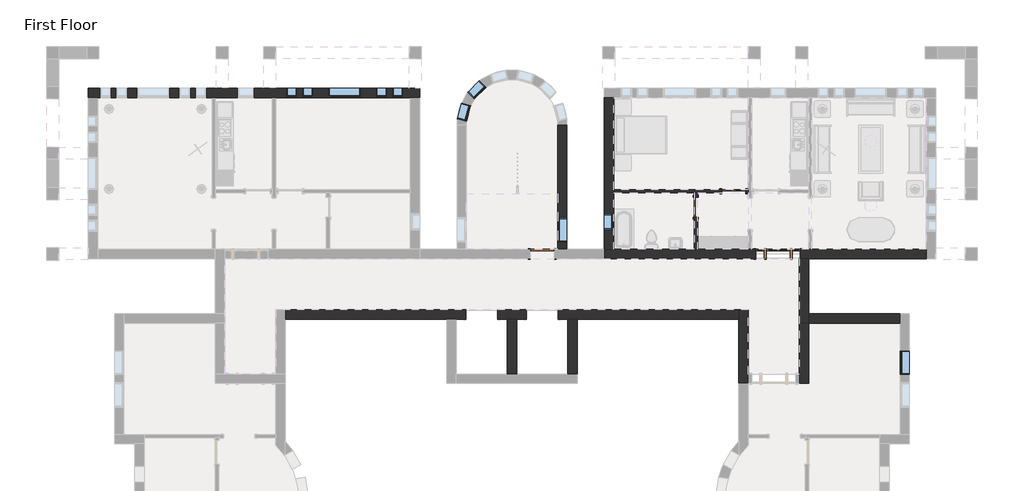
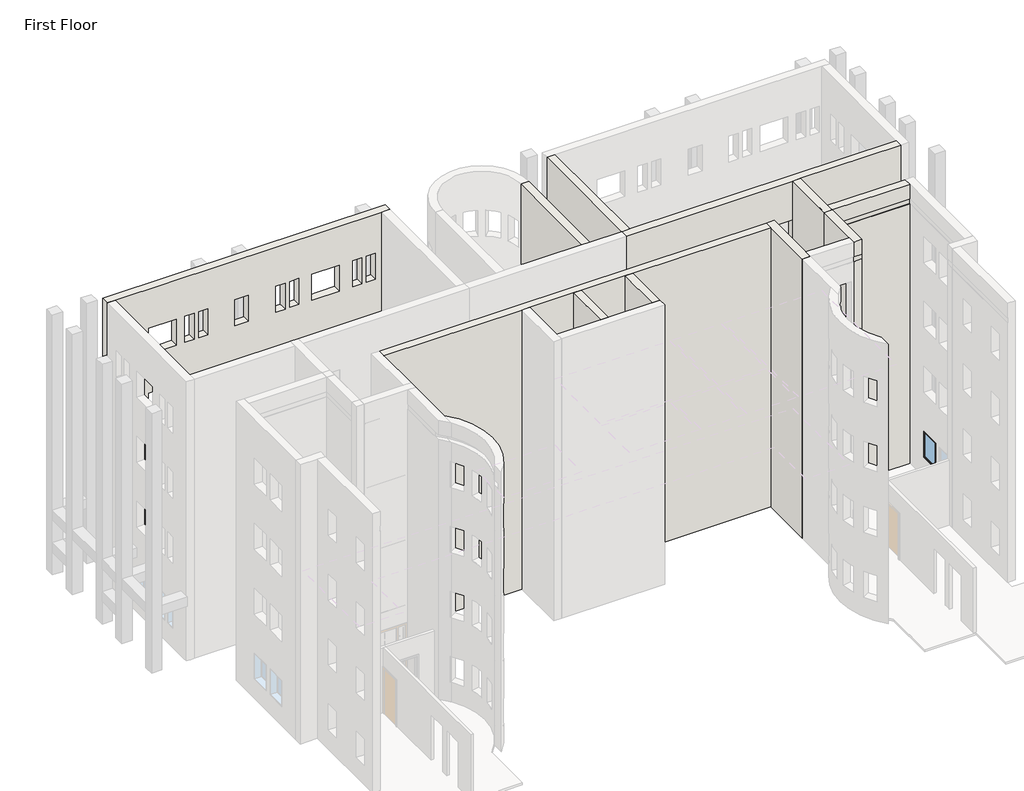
# One storey, part 15 of 23: 13 walls, 10 windows, 4 doors.
"""IFC4 building model written with IfcOpenShell, lengths in millimetres."""

from ifc_helpers import new_model, si_unit, frame, origin, origin_with_axes, place, context, project, spatial, polyline, outline, extrude, faceted_brep, transform, mapped, element, save
from components import door_2e3b4da2, door_4d6c7550, door_632be17d, door_dba5aa2e, window_da97879f, window_d61ef850, window_60baf983, window_15c49d37, window_0e2fc6ce, window_d89bf842

model = new_model("IFC4")

# Units and contexts
model_context = context("Model", 3, world=origin())
ifc_project = project(units=[si_unit("LENGTHUNIT", "METRE", prefix="MILLI")], contexts=[model_context])

# Site, building, storey
site = spatial("IfcSite", under=ifc_project)
building = spatial("IfcBuilding", under=site)
storey = spatial("IfcBuildingStorey", under=building, Name="First Floor", Elevation=0.0)

# Doors
placement = place(None, origin())
door_shape = door_2e3b4da2(model_context)
element("IfcDoor", 1, ObjectType="Single-Decorative 2 : 36\" x 84\"", at=placement, inside=storey, context=model_context, shape_type="MappedRepresentation", body=[
    mapped(door_shape, transform((-6669.0589563, 6723.5441867, 0.0), x_axis=(1.0, 0.0, 0.0), y_axis=(0.0, 1.0, 0.0), z_axis=(0.0, 0.0, 1.0))),
])
door_2_shape = door_4d6c7550(model_context)
element("IfcDoor", 2, ObjectType="Single-Flush : 30\" x 84\"", at=placement, inside=storey, context=model_context, shape_type="MappedRepresentation", body=[
    mapped(door_2_shape, transform((-8105.7464563, 6113.9441867, 0.0), x_axis=(0.0, 1.0, 0.0), y_axis=(-1.0, 0.0, 0.0), z_axis=(0.0, 0.0, 1.0))),
])
door_3_shape = door_632be17d(model_context)
element("IfcDoor", 3, ObjectType="Single-Flush : 36\" x 84\"", at=placement, inside=storey, context=model_context, shape_type="MappedRepresentation", body=[
    mapped(door_3_shape, transform((-13919.1714563, 4350.2316867, 0.0), x_axis=(1.0, 0.0, 0.0), y_axis=(0.0, 1.0, 0.0), z_axis=(0.0, 0.0, 1.0))),
])
door_4_shape = door_dba5aa2e(model_context)
element("IfcDoor", 4, ObjectType="Single-Raised Panel with Sidelights : 36\" x 84\"", at=placement, inside=storey, context=model_context, shape_type="MappedRepresentation", body=[
    mapped(door_4_shape, transform((-4992.6589563, 4350.2316867, 0.0), x_axis=(-1.0, 0.0, 0.0), y_axis=(0.0, -1.0, 0.0), z_axis=(0.0, 0.0, 1.0))),
])

# Walls
element("IfcWall", 5, ObjectType="Exterior - Brick on Mtl. Stud", at=placement, inside=storey, context=model_context, shape_type="Brep", body=[
    faceted_brep([(-5830.8589563, 4526.4441867, 2133.6), (-5830.8589563, 4526.4441867, 0.0), (-5995.9589563, 4526.4441867, 0.0), (-6122.9589563, 4526.4441867, 0.0), (-8042.2464563, 4526.4441867, 0.0), (-8169.2464563, 4526.4441867, 0.0), (-11217.2464563, 4526.4441867, 0.0), (-11569.6714563, 4526.4441867, 0.0), (-11571.2589563, 4526.4441867, 0.0), (-11571.2589563, 4526.4441867, 13106.4), (-11569.6714563, 4526.4441867, 13106.4), (-11217.2464563, 4526.4441867, 13106.4), (622.3285437, 4526.4441867, 13106.4), (622.3285437, 4526.4441867, 0.0), (-3709.9589563, 4526.4441867, 0.0), (-3836.9589563, 4526.4441867, 0.0), (-4154.4589563, 4526.4441867, 0.0), (-4154.4589563, 4526.4441867, 2133.6), (-4154.4589563, 4526.4441867, 9144.0), (-4154.4589563, 4526.4441867, 11277.6), (-5830.8589563, 4526.4441867, 11277.6), (-5830.8589563, 4526.4441867, 9144.0), (-4154.4589563, 4526.4441867, 3048.0), (-4154.4589563, 4526.4441867, 5181.6), (-5830.8589563, 4526.4441867, 5181.6), (-5830.8589563, 4526.4441867, 3048.0), (-4154.4589563, 4526.4441867, 6096.0), (-4154.4589563, 4526.4441867, 8229.6), (-5830.8589563, 4526.4441867, 8229.6), (-5830.8589563, 4526.4441867, 6096.0), (-11571.2589563, 4174.0191867, 0.0), (-5830.8589563, 4174.0191867, 0.0), (-5830.8589563, 4174.0191867, 2133.6), (-4154.4589563, 4174.0191867, 2133.6), (-4154.4589563, 4174.0191867, 0.0), (-3836.9589563, 4174.0191867, 0.0), (622.3285437, 4174.0191867, 0.0), (622.3285437, 4174.0191867, 13106.4), (-3836.9589563, 4174.0191867, 13106.4), (-4189.3839563, 4174.0191867, 13106.4), (-11571.2589563, 4174.0191867, 13106.4), (-4154.4589563, 4174.0191867, 9144.0), (-5830.8589563, 4174.0191867, 9144.0), (-5830.8589563, 4174.0191867, 11277.6), (-4154.4589563, 4174.0191867, 11277.6), (-4154.4589563, 4174.0191867, 3048.0), (-5830.8589563, 4174.0191867, 3048.0), (-5830.8589563, 4174.0191867, 5181.6), (-4154.4589563, 4174.0191867, 5181.6), (-4154.4589563, 4174.0191867, 6096.0), (-5830.8589563, 4174.0191867, 6096.0), (-5830.8589563, 4174.0191867, 8229.6), (-4154.4589563, 4174.0191867, 8229.6)], [[[0, 1, 2, 3, 4, 5, 6, 7, 8, 9, 10, 11, 12, 13, 14, 15, 16, 17], [18, 19, 20, 21], [22, 23, 24, 25], [26, 27, 28, 29]], [[30, 31, 32, 33, 34, 35, 36, 37, 38, 39, 40], [41, 42, 43, 44], [45, 46, 47, 48], [49, 50, 51, 52]], [[8, 7, 6, 5, 4, 3, 2, 1, 31, 30]], [[16, 15, 14, 13, 36, 35, 34]], [[9, 8, 30, 40]], [[12, 11, 10, 9, 40, 39, 38, 37]], [[13, 12, 37, 36]], [[32, 31, 1, 0]], [[33, 32, 0, 17]], [[34, 33, 17, 16]], [[42, 41, 18, 21]], [[43, 42, 21, 20]], [[44, 43, 20, 19]], [[41, 44, 19, 18]], [[46, 45, 22, 25]], [[47, 46, 25, 24]], [[48, 47, 24, 23]], [[45, 48, 23, 22]], [[50, 49, 26, 29]], [[51, 50, 29, 28]], [[52, 51, 28, 27]], [[49, 52, 27, 26]]]),
])
element("IfcWall", 6, ObjectType="Exterior - Brick on Mtl. Stud", at=placement, inside=storey, context=model_context, shape_type="Brep", body=[
    faceted_brep([(-11217.2464563, 4526.4441867, 0.0), (-11217.2464563, 6660.0441867, 0.0), (-11217.2464563, 6787.0441867, 0.0), (-11217.2464563, 10270.0191867, 0.0), (-11217.2464563, 10270.0191867, 13106.4), (-11217.2464563, 4526.4441867, 13106.4), (-11217.2464563, 5264.6316867, 8229.6), (-11217.2464563, 5874.2316867, 8229.6), (-11217.2464563, 5874.2316867, 7010.4), (-11217.2464563, 5264.6316867, 7010.4), (-11217.2464563, 5264.6316867, 5181.6), (-11217.2464563, 5874.2316867, 5181.6), (-11217.2464563, 5874.2316867, 3962.4), (-11217.2464563, 5264.6316867, 3962.4), (-11217.2464563, 5264.6316867, 11277.6), (-11217.2464563, 5874.2316867, 11277.6), (-11217.2464563, 5874.2316867, 10058.4), (-11217.2464563, 5264.6316867, 10058.4), (-11217.2464563, 5264.6316867, 2133.6), (-11217.2464563, 5874.2316867, 2133.6), (-11217.2464563, 5874.2316867, 914.4), (-11217.2464563, 5264.6316867, 914.4), (-11569.6714563, 4526.4441867, 0.0), (-11569.6714563, 4526.4441867, 13106.4), (-11569.6714563, 10270.0191867, 13106.4), (-11569.6714563, 10270.0191867, 0.0), (-11569.6714563, 5264.6316867, 8229.6), (-11569.6714563, 5264.6316867, 7010.4), (-11569.6714563, 5874.2316867, 7010.4), (-11569.6714563, 5874.2316867, 8229.6), (-11569.6714563, 5264.6316867, 5181.6), (-11569.6714563, 5264.6316867, 3962.4), (-11569.6714563, 5874.2316867, 3962.4), (-11569.6714563, 5874.2316867, 5181.6), (-11569.6714563, 5264.6316867, 11277.6), (-11569.6714563, 5264.6316867, 10058.4), (-11569.6714563, 5874.2316867, 10058.4), (-11569.6714563, 5874.2316867, 11277.6), (-11569.6714563, 5264.6316867, 2133.6), (-11569.6714563, 5264.6316867, 914.4), (-11569.6714563, 5874.2316867, 914.4), (-11569.6714563, 5874.2316867, 2133.6), (-11382.3464563, 4526.4441867, 0.0), (-11382.3464563, 10270.0191867, 0.0)], [[[0, 1, 2, 3, 4, 5], [6, 7, 8, 9], [10, 11, 12, 13], [14, 15, 16, 17], [18, 19, 20, 21]], [[22, 23, 24, 25], [26, 27, 28, 29], [30, 31, 32, 33], [34, 35, 36, 37], [38, 39, 40, 41]], [[5, 4, 24, 23]], [[0, 5, 23, 22, 42]], [[4, 3, 43, 25, 24]], [[42, 22, 25, 43]], [[3, 2, 1, 0, 42, 43]], [[27, 26, 6, 9]], [[28, 27, 9, 8]], [[29, 28, 8, 7]], [[26, 29, 7, 6]], [[31, 30, 10, 13]], [[32, 31, 13, 12]], [[33, 32, 12, 11]], [[30, 33, 11, 10]], [[35, 34, 14, 17]], [[36, 35, 17, 16]], [[37, 36, 16, 15]], [[34, 37, 15, 14]], [[39, 38, 18, 21]], [[40, 39, 21, 20]], [[41, 40, 20, 19]], [[38, 41, 19, 18]]]),
])
element("IfcWall", 7, ObjectType="Exterior - Brick on Mtl. Stud", at=placement, inside=storey, context=model_context, shape_type="SweptSolid", body=[
    extrude(outline(polyline([(-12599.9589563, 1888.0191867), (-12599.9589563, -197.9558133), (-12952.3839563, -197.9558133), (-12952.3839563, 1888.0191867), (-12599.9589563, 1888.0191867)])), origin_with_axes(), (0.0, 0.0, 1.0), 13106.4),
])
element("IfcWall", 8, ObjectType="Exterior - Brick on Mtl. Stud", at=placement, inside=storey, context=model_context, shape_type="Brep", body=[
    faceted_brep([(-15595.5714563, 1888.0191867, 0.0), (-15238.3839563, 1888.0191867, 0.0), (-14885.9589563, 1888.0191867, 0.0), (-14528.7714563, 1888.0191867, 0.0), (-14528.7714563, 1888.0191867, 2133.6), (-13309.5714563, 1888.0191867, 2133.6), (-13309.5714563, 1888.0191867, 0.0), (-12952.3839563, 1888.0191867, 0.0), (-12599.9589563, 1888.0191867, 0.0), (-6475.3839563, 1888.0191867, 0.0), (-6475.3839563, 1888.0191867, 13106.4), (-12599.9589563, 1888.0191867, 13106.4), (-12952.3839563, 1888.0191867, 13106.4), (-14885.9589563, 1888.0191867, 13106.4), (-15238.3839563, 1888.0191867, 13106.4), (-17171.9589563, 1888.0191867, 13106.4), (-17524.3839563, 1888.0191867, 13106.4), (-23648.9589563, 1888.0191867, 13106.4), (-23648.9589563, 1888.0191867, 0.0), (-17524.3839563, 1888.0191867, 0.0), (-17171.9589563, 1888.0191867, 0.0), (-16814.7714563, 1888.0191867, 0.0), (-16814.7714563, 1888.0191867, 2133.6), (-15595.5714563, 1888.0191867, 2133.6), (-13309.5714563, 1888.0191867, 8229.6), (-13309.5714563, 1888.0191867, 6096.0), (-14528.7714563, 1888.0191867, 6096.0), (-14528.7714563, 1888.0191867, 8229.6), (-15595.5714563, 1888.0191867, 8229.6), (-15595.5714563, 1888.0191867, 6096.0), (-16814.7714563, 1888.0191867, 6096.0), (-16814.7714563, 1888.0191867, 8229.6), (-13309.5714563, 1888.0191867, 5181.6), (-13309.5714563, 1888.0191867, 3048.0), (-14528.7714563, 1888.0191867, 3048.0), (-14528.7714563, 1888.0191867, 5181.6), (-15595.5714563, 1888.0191867, 5181.6), (-15595.5714563, 1888.0191867, 3048.0), (-16814.7714563, 1888.0191867, 3048.0), (-16814.7714563, 1888.0191867, 5181.6), (-13309.5714563, 1888.0191867, 11277.6), (-13309.5714563, 1888.0191867, 9144.0), (-14528.7714563, 1888.0191867, 9144.0), (-14528.7714563, 1888.0191867, 11277.6), (-15595.5714563, 1888.0191867, 11277.6), (-15595.5714563, 1888.0191867, 9144.0), (-16814.7714563, 1888.0191867, 9144.0), (-16814.7714563, 1888.0191867, 11277.6), (-14528.7714563, 2240.4441867, 2133.6), (-14528.7714563, 2240.4441867, 0.0), (-15595.5714563, 2240.4441867, 0.0), (-15595.5714563, 2240.4441867, 2133.6), (-16814.7714563, 2240.4441867, 2133.6), (-16814.7714563, 2240.4441867, 0.0), (-23648.9589563, 2240.4441867, 0.0), (-23648.9589563, 2240.4441867, 13106.4), (-6475.3839563, 2240.4441867, 13106.4), (-6475.3839563, 2240.4441867, 0.0), (-13309.5714563, 2240.4441867, 0.0), (-13309.5714563, 2240.4441867, 2133.6), (-13309.5714563, 2240.4441867, 8229.6), (-14528.7714563, 2240.4441867, 8229.6), (-14528.7714563, 2240.4441867, 6096.0), (-13309.5714563, 2240.4441867, 6096.0), (-15595.5714563, 2240.4441867, 8229.6), (-16814.7714563, 2240.4441867, 8229.6), (-16814.7714563, 2240.4441867, 6096.0), (-15595.5714563, 2240.4441867, 6096.0), (-13309.5714563, 2240.4441867, 5181.6), (-14528.7714563, 2240.4441867, 5181.6), (-14528.7714563, 2240.4441867, 3048.0), (-13309.5714563, 2240.4441867, 3048.0), (-15595.5714563, 2240.4441867, 5181.6), (-16814.7714563, 2240.4441867, 5181.6), (-16814.7714563, 2240.4441867, 3048.0), (-15595.5714563, 2240.4441867, 3048.0), (-13309.5714563, 2240.4441867, 11277.6), (-14528.7714563, 2240.4441867, 11277.6), (-14528.7714563, 2240.4441867, 9144.0), (-13309.5714563, 2240.4441867, 9144.0), (-15595.5714563, 2240.4441867, 11277.6), (-16814.7714563, 2240.4441867, 11277.6), (-16814.7714563, 2240.4441867, 9144.0), (-15595.5714563, 2240.4441867, 9144.0)], [[[0, 1, 2, 3, 4, 5, 6, 7, 8, 9, 10, 11, 12, 13, 14, 15, 16, 17, 18, 19, 20, 21, 22, 23], [24, 25, 26, 27], [28, 29, 30, 31], [32, 33, 34, 35], [36, 37, 38, 39], [40, 41, 42, 43], [44, 45, 46, 47]], [[48, 49, 50, 51, 52, 53, 54, 55, 56, 57, 58, 59], [60, 61, 62, 63], [64, 65, 66, 67], [68, 69, 70, 71], [72, 73, 74, 75], [76, 77, 78, 79], [80, 81, 82, 83]], [[54, 53, 21, 20, 19, 18]], [[50, 49, 3, 2, 1, 0]], [[58, 57, 9, 8, 7, 6]], [[17, 16, 15, 14, 13, 12, 11, 10, 56, 55]], [[10, 9, 57, 56]], [[18, 17, 55, 54]], [[0, 23, 51, 50]], [[22, 21, 53, 52]], [[23, 22, 52, 51]], [[6, 5, 59, 58]], [[4, 3, 49, 48]], [[5, 4, 48, 59]], [[25, 24, 60, 63]], [[26, 25, 63, 62]], [[27, 26, 62, 61]], [[24, 27, 61, 60]], [[29, 28, 64, 67]], [[30, 29, 67, 66]], [[31, 30, 66, 65]], [[28, 31, 65, 64]], [[33, 32, 68, 71]], [[34, 33, 71, 70]], [[35, 34, 70, 69]], [[32, 35, 69, 68]], [[37, 36, 72, 75]], [[38, 37, 75, 74]], [[39, 38, 74, 73]], [[36, 39, 73, 72]], [[41, 40, 76, 79]], [[42, 41, 79, 78]], [[43, 42, 78, 77]], [[40, 43, 77, 76]], [[45, 44, 80, 83]], [[46, 45, 83, 82]], [[47, 46, 82, 81]], [[44, 47, 81, 80]]]),
])
element("IfcWall", 9, ObjectType="Exterior - Brick on Mtl. Stud", at=placement, inside=storey, context=model_context, shape_type="SweptSolid", body=[
    extrude(outline(polyline([(4526.4441867, 0.0), (4526.4441867, 13106.4), (9227.0316867, 13106.4), (9227.0316867, 0.0), (4526.4441867, 0.0)]), holes=[polyline([(5721.8316867, 8229.6), (4807.4316867, 8229.6), (4807.4316867, 7010.4), (5721.8316867, 7010.4), (5721.8316867, 8229.6)]), polyline([(5721.8316867, 5181.6), (4807.4316867, 5181.6), (4807.4316867, 3962.4), (5721.8316867, 3962.4), (5721.8316867, 5181.6)]), polyline([(5721.8316867, 11277.6), (4807.4316867, 11277.6), (4807.4316867, 10058.4), (5721.8316867, 10058.4), (5721.8316867, 11277.6)]), polyline([(5721.8316867, 2133.6), (4807.4316867, 2133.6), (4807.4316867, 914.4), (5721.8316867, 914.4), (5721.8316867, 2133.6)])]), frame((-13333.3839563, 0.0, 0.0), z_axis=(1.0, 0.0, 0.0), x_axis=(0.0, 1.0, 0.0)), (0.0, 0.0, 1.0), 352.425),
])
element("IfcWall", 10, ObjectType="Exterior - Brick on Mtl. Stud", at=placement, inside=storey, context=model_context, shape_type="SweptSolid", body=[
    extrude(outline(polyline([(-14885.9589563, 1888.0191867), (-14885.9589563, -197.9558133), (-15238.3839563, -197.9558133), (-15238.3839563, 1888.0191867), (-14885.9589563, 1888.0191867)])), origin_with_axes(), (0.0, 0.0, 1.0), 13106.4),
])
element("IfcWall", 11, ObjectType="Exterior - Brick on Mtl. Stud", at=placement, inside=storey, context=model_context, shape_type="Brep", body=[
    faceted_brep([(-6475.3839563, 2240.4441867, 0.0), (-6475.3839563, 1888.0191867, 0.0), (-6475.3839563, -550.3808133, 0.0), (-6475.3839563, -550.3808133, 13106.4), (-6475.3839563, 1888.0191867, 13106.4), (-6475.3839563, 2240.4441867, 13106.4), (-6122.9589563, 2240.4441867, 0.0), (-6122.9589563, 2240.4441867, 13106.4), (-6122.9589563, -197.9558133, 13106.4), (-6122.9589563, -550.3808133, 13106.4), (-6122.9589563, -550.3808133, 12420.6), (-6122.9589563, -550.3808133, 12192.0), (-6122.9589563, -550.3808133, 0.0), (-6122.9589563, -197.9558133, 0.0)], [[[0, 1, 2, 3, 4, 5]], [[6, 7, 8, 9, 10, 11, 12, 13]], [[2, 1, 0, 6, 13, 12]], [[5, 4, 3, 9, 8, 7]], [[0, 5, 7, 6]], [[3, 2, 12, 11, 10, 9]]]),
])
element("IfcWall", 12, ObjectType="Exterior - Brick on Mtl. Stud", at=placement, inside=storey, context=model_context, shape_type="Brep", body=[
    faceted_brep([(-3836.9589563, -550.3808133, 0.0), (-3836.9589563, 4174.0191867, 0.0), (-3836.9589563, 4174.0191867, 13106.4), (-3836.9589563, -550.3808133, 13106.4), (-4189.3839563, -550.3808133, 0.0), (-4189.3839563, -550.3808133, 12192.0), (-4189.3839563, -550.3808133, 12420.6), (-4189.3839563, -550.3808133, 13106.4), (-4189.3839563, -197.9558133, 13106.4), (-4189.3839563, 4174.0191867, 13106.4), (-4189.3839563, 4174.0191867, 0.0), (-4189.3839563, -197.9558133, 0.0), (-4154.4589563, 4174.0191867, 0.0)], [[[0, 1, 2, 3]], [[4, 5, 6, 7, 8, 9, 10, 11]], [[1, 0, 4, 11, 10, 12]], [[3, 2, 9, 8, 7]], [[0, 3, 7, 6, 5, 4]], [[2, 1, 12, 10, 9]]]),
])
element("IfcWall", 13, ObjectType="Exterior - Brick on Mtl. Stud", at=placement, inside=storey, context=model_context, shape_type="Brep", body=[
    faceted_brep([(-379.3839563, 2088.0441867, 0.0), (-4189.3839563, 2088.0441867, 0.0), (-4189.3839563, 2088.0441867, 13106.4), (-379.3839563, 2088.0441867, 13106.4), (-4189.3839563, 1735.6191867, 0.0), (-3836.9589563, 1735.6191867, 0.0), (-379.3839563, 1735.6191867, 0.0), (-379.3839563, 1735.6191867, 12192.0), (-3836.9589563, 1735.6191867, 12192.0), (-3849.6589563, 1735.6191867, 12192.0), (-3849.6589563, 1735.6191867, 12420.6), (-3836.9589563, 1735.6191867, 12420.6), (-379.3839563, 1735.6191867, 12420.6), (-379.3839563, 1735.6191867, 13106.4), (-3836.9589563, 1735.6191867, 13106.4), (-4189.3839563, 1735.6191867, 13106.4), (-379.3839563, 1748.3191867, 12420.6), (-379.3839563, 1748.3191867, 12192.0), (-3849.6589563, 1748.3191867, 12192.0), (-3849.6589563, 1748.3191867, 12420.6)], [[[0, 1, 2, 3]], [[4, 5, 6, 7, 8, 9, 10, 11, 12, 13, 14, 15]], [[1, 0, 6, 5, 4]], [[3, 2, 15, 14, 13]], [[2, 1, 4, 15]], [[0, 3, 13, 12, 16, 17, 7, 6]], [[17, 18, 9, 8, 7]], [[10, 19, 16, 12, 11]], [[19, 18, 17, 16]], [[18, 19, 10, 9]]]),
])
element("IfcWall", 14, ObjectType="Exterior - Brick on Mtl. Stud", at=placement, inside=storey, context=model_context, shape_type="Brep", body=[
    faceted_brep([(-4189.3839563, 1735.6191867, 0.0), (-4189.3839563, -197.9558133, 0.0), (-4189.3839563, -550.3808133, 0.0), (-4189.3839563, -550.3808133, 12192.0), (-4189.3839563, -537.6808133, 12192.0), (-4189.3839563, -537.6808133, 12420.6), (-4189.3839563, -550.3808133, 12420.6), (-4189.3839563, -550.3808133, 13106.4), (-4189.3839563, -197.9558133, 13106.4), (-4189.3839563, 1735.6191867, 13106.4), (-3836.9589563, -550.3808133, 0.0), (-3836.9589563, 1735.6191867, 0.0), (-3836.9589563, 1735.6191867, 12192.0), (-3836.9589563, -550.3808133, 12192.0), (-3836.9589563, 1735.6191867, 13106.4), (-3836.9589563, -550.3808133, 13106.4), (-3836.9589563, -550.3808133, 12420.6), (-3836.9589563, 1735.6191867, 12420.6), (-3849.6589563, 1735.6191867, 12420.6), (-3849.6589563, 1735.6191867, 12192.0), (-3849.6589563, -537.6808133, 12192.0), (-3849.6589563, -537.6808133, 12420.6)], [[[0, 1, 2, 3, 4, 5, 6, 7, 8, 9]], [[10, 11, 12, 13]], [[14, 15, 16, 17]], [[2, 1, 0, 11, 10]], [[9, 8, 7, 15, 14]], [[0, 9, 14, 17, 18, 19, 12, 11]], [[2, 10, 13, 3]], [[15, 7, 6, 16]], [[19, 20, 4, 3, 13, 12]], [[5, 21, 18, 17, 16, 6]], [[21, 20, 19, 18]], [[20, 21, 5, 4]]]),
])
element("IfcWall", 15, ObjectType="Exterior - Brick on Mtl. Stud", at=placement, inside=storey, context=model_context, shape_type="Brep", body=[
    faceted_brep([(-18554.6714563, 10622.4441867, 0.0), (-18741.9964563, 10622.4441867, 0.0), (-30911.7714563, 10622.4441867, 0.0), (-31099.0964563, 10622.4441867, 0.0), (-31099.0964563, 10622.4441867, 13106.4), (-18554.6714563, 10622.4441867, 13106.4), (-30033.8839563, 10622.4441867, 8229.6), (-30033.8839563, 10622.4441867, 7010.4), (-29627.4839563, 10622.4441867, 7010.4), (-29627.4839563, 10622.4441867, 8229.6), (-30643.4839563, 10622.4441867, 8229.6), (-30643.4839563, 10622.4441867, 7010.4), (-30237.0839563, 10622.4441867, 7010.4), (-30237.0839563, 10622.4441867, 8229.6), (-27239.8839563, 10622.4441867, 8229.6), (-27646.2839563, 10622.4441867, 8229.6), (-27646.2839563, 10622.4441867, 7010.4), (-27239.8839563, 10622.4441867, 7010.4), (-26630.2839563, 10622.4441867, 8229.6), (-27036.6839563, 10622.4441867, 8229.6), (-27036.6839563, 10622.4441867, 7010.4), (-26630.2839563, 10622.4441867, 7010.4), (-22998.0839563, 10622.4441867, 8229.6), (-22998.0839563, 10622.4441867, 7010.4), (-22591.6839563, 10622.4441867, 7010.4), (-22591.6839563, 10622.4441867, 8229.6), (-23607.6839563, 10622.4441867, 8229.6), (-23607.6839563, 10622.4441867, 7010.4), (-23201.2839563, 10622.4441867, 7010.4), (-23201.2839563, 10622.4441867, 8229.6), (-19797.6839563, 10622.4441867, 8229.6), (-20204.0839563, 10622.4441867, 8229.6), (-20204.0839563, 10622.4441867, 7010.4), (-19797.6839563, 10622.4441867, 7010.4), (-19188.0839563, 10622.4441867, 8229.6), (-19594.4839563, 10622.4441867, 8229.6), (-19594.4839563, 10622.4441867, 7010.4), (-19188.0839563, 10622.4441867, 7010.4), (-28027.2839563, 10622.4441867, 8229.6), (-29246.4839563, 10622.4441867, 8229.6), (-29246.4839563, 10622.4441867, 7010.4), (-28027.2839563, 10622.4441867, 7010.4), (-20788.2839563, 10622.4441867, 8229.6), (-22007.4839563, 10622.4441867, 8229.6), (-22007.4839563, 10622.4441867, 7010.4), (-20788.2839563, 10622.4441867, 7010.4), (-24826.8839563, 10622.4441867, 8229.6), (-25436.4839563, 10622.4441867, 8229.6), (-25436.4839563, 10622.4441867, 7010.4), (-24826.8839563, 10622.4441867, 7010.4), (-30033.8839563, 10622.4441867, 5181.6), (-30033.8839563, 10622.4441867, 3962.4), (-29627.4839563, 10622.4441867, 3962.4), (-29627.4839563, 10622.4441867, 5181.6), (-30643.4839563, 10622.4441867, 5181.6), (-30643.4839563, 10622.4441867, 3962.4), (-30237.0839563, 10622.4441867, 3962.4), (-30237.0839563, 10622.4441867, 5181.6), (-27239.8839563, 10622.4441867, 5181.6), (-27646.2839563, 10622.4441867, 5181.6), (-27646.2839563, 10622.4441867, 3962.4), (-27239.8839563, 10622.4441867, 3962.4), (-26630.2839563, 10622.4441867, 5181.6), (-27036.6839563, 10622.4441867, 5181.6), (-27036.6839563, 10622.4441867, 3962.4), (-26630.2839563, 10622.4441867, 3962.4), (-22998.0839563, 10622.4441867, 5181.6), (-22998.0839563, 10622.4441867, 3962.4), (-22591.6839563, 10622.4441867, 3962.4), (-22591.6839563, 10622.4441867, 5181.6), (-23607.6839563, 10622.4441867, 5181.6), (-23607.6839563, 10622.4441867, 3962.4), (-23201.2839563, 10622.4441867, 3962.4), (-23201.2839563, 10622.4441867, 5181.6), (-19797.6839563, 10622.4441867, 5181.6), (-20204.0839563, 10622.4441867, 5181.6), (-20204.0839563, 10622.4441867, 3962.4), (-19797.6839563, 10622.4441867, 3962.4), (-19188.0839563, 10622.4441867, 5181.6), (-19594.4839563, 10622.4441867, 5181.6), (-19594.4839563, 10622.4441867, 3962.4), (-19188.0839563, 10622.4441867, 3962.4), (-28027.2839563, 10622.4441867, 5181.6), (-29246.4839563, 10622.4441867, 5181.6), (-29246.4839563, 10622.4441867, 3962.4), (-28027.2839563, 10622.4441867, 3962.4), (-20788.2839563, 10622.4441867, 5181.6), (-22007.4839563, 10622.4441867, 5181.6), (-22007.4839563, 10622.4441867, 3962.4), (-20788.2839563, 10622.4441867, 3962.4), (-24826.8839563, 10622.4441867, 5181.6), (-25436.4839563, 10622.4441867, 5181.6), (-25436.4839563, 10622.4441867, 3962.4), (-24826.8839563, 10622.4441867, 3962.4), (-30033.8839563, 10622.4441867, 11277.6), (-30033.8839563, 10622.4441867, 10058.4), (-29627.4839563, 10622.4441867, 10058.4), (-29627.4839563, 10622.4441867, 11277.6), (-30643.4839563, 10622.4441867, 11277.6), (-30643.4839563, 10622.4441867, 10058.4), (-30237.0839563, 10622.4441867, 10058.4), (-30237.0839563, 10622.4441867, 11277.6), (-27239.8839563, 10622.4441867, 11277.6), (-27646.2839563, 10622.4441867, 11277.6), (-27646.2839563, 10622.4441867, 10058.4), (-27239.8839563, 10622.4441867, 10058.4), (-26630.2839563, 10622.4441867, 11277.6), (-27036.6839563, 10622.4441867, 11277.6), (-27036.6839563, 10622.4441867, 10058.4), (-26630.2839563, 10622.4441867, 10058.4), (-22998.0839563, 10622.4441867, 11277.6), (-22998.0839563, 10622.4441867, 10058.4), (-22591.6839563, 10622.4441867, 10058.4), (-22591.6839563, 10622.4441867, 11277.6), (-23607.6839563, 10622.4441867, 11277.6), (-23607.6839563, 10622.4441867, 10058.4), (-23201.2839563, 10622.4441867, 10058.4), (-23201.2839563, 10622.4441867, 11277.6), (-19797.6839563, 10622.4441867, 11277.6), (-20204.0839563, 10622.4441867, 11277.6), (-20204.0839563, 10622.4441867, 10058.4), (-19797.6839563, 10622.4441867, 10058.4), (-19188.0839563, 10622.4441867, 11277.6), (-19594.4839563, 10622.4441867, 11277.6), (-19594.4839563, 10622.4441867, 10058.4), (-19188.0839563, 10622.4441867, 10058.4), (-28027.2839563, 10622.4441867, 11277.6), (-29246.4839563, 10622.4441867, 11277.6), (-29246.4839563, 10622.4441867, 10058.4), (-28027.2839563, 10622.4441867, 10058.4), (-20788.2839563, 10622.4441867, 11277.6), (-22007.4839563, 10622.4441867, 11277.6), (-22007.4839563, 10622.4441867, 10058.4), (-20788.2839563, 10622.4441867, 10058.4), (-24826.8839563, 10622.4441867, 11277.6), (-25436.4839563, 10622.4441867, 11277.6), (-25436.4839563, 10622.4441867, 10058.4), (-24826.8839563, 10622.4441867, 10058.4), (-30033.8839563, 10622.4441867, 2133.6), (-30033.8839563, 10622.4441867, 914.4), (-29627.4839563, 10622.4441867, 914.4), (-29627.4839563, 10622.4441867, 2133.6), (-30643.4839563, 10622.4441867, 2133.6), (-30643.4839563, 10622.4441867, 914.4), (-30237.0839563, 10622.4441867, 914.4), (-30237.0839563, 10622.4441867, 2133.6), (-27239.8839563, 10622.4441867, 2133.6), (-27646.2839563, 10622.4441867, 2133.6), (-27646.2839563, 10622.4441867, 914.4), (-27239.8839563, 10622.4441867, 914.4), (-26630.2839563, 10622.4441867, 2133.6), (-27036.6839563, 10622.4441867, 2133.6), (-27036.6839563, 10622.4441867, 914.4), (-26630.2839563, 10622.4441867, 914.4), (-22998.0839563, 10622.4441867, 2133.6), (-22998.0839563, 10622.4441867, 914.4), (-22591.6839563, 10622.4441867, 914.4), (-22591.6839563, 10622.4441867, 2133.6), (-23607.6839563, 10622.4441867, 2133.6), (-23607.6839563, 10622.4441867, 914.4), (-23201.2839563, 10622.4441867, 914.4), (-23201.2839563, 10622.4441867, 2133.6), (-19797.6839563, 10622.4441867, 2133.6), (-20204.0839563, 10622.4441867, 2133.6), (-20204.0839563, 10622.4441867, 914.4), (-19797.6839563, 10622.4441867, 914.4), (-19188.0839563, 10622.4441867, 2133.6), (-19594.4839563, 10622.4441867, 2133.6), (-19594.4839563, 10622.4441867, 914.4), (-19188.0839563, 10622.4441867, 914.4), (-28027.2839563, 10622.4441867, 2133.6), (-29246.4839563, 10622.4441867, 2133.6), (-29246.4839563, 10622.4441867, 914.4), (-28027.2839563, 10622.4441867, 914.4), (-20788.2839563, 10622.4441867, 2133.6), (-22007.4839563, 10622.4441867, 2133.6), (-22007.4839563, 10622.4441867, 914.4), (-20788.2839563, 10622.4441867, 914.4), (-24826.8839563, 10622.4441867, 2133.6), (-25436.4839563, 10622.4441867, 2133.6), (-25436.4839563, 10622.4441867, 914.4), (-24826.8839563, 10622.4441867, 914.4), (-18554.6714563, 10270.0191867, 0.0), (-18554.6714563, 10270.0191867, 13106.4), (-18907.0964563, 10270.0191867, 13106.4), (-30746.6714563, 10270.0191867, 13106.4), (-31099.0964563, 10270.0191867, 13106.4), (-31099.0964563, 10270.0191867, 0.0), (-30911.7714563, 10270.0191867, 0.0), (-30746.6714563, 10270.0191867, 0.0), (-26414.3839563, 10270.0191867, 0.0), (-26287.3839563, 10270.0191867, 0.0), (-24128.3839563, 10270.0191867, 0.0), (-24001.3839563, 10270.0191867, 0.0), (-18907.0964563, 10270.0191867, 0.0), (-18741.9964563, 10270.0191867, 0.0), (-30033.8839563, 10270.0191867, 8229.6), (-29627.4839563, 10270.0191867, 8229.6), (-29627.4839563, 10270.0191867, 7010.4), (-30033.8839563, 10270.0191867, 7010.4), (-30643.4839563, 10270.0191867, 8229.6), (-30237.0839563, 10270.0191867, 8229.6), (-30237.0839563, 10270.0191867, 7010.4), (-30643.4839563, 10270.0191867, 7010.4), (-27239.8839563, 10270.0191867, 8229.6), (-27239.8839563, 10270.0191867, 7010.4), (-27646.2839563, 10270.0191867, 7010.4), (-27646.2839563, 10270.0191867, 8229.6), (-26630.2839563, 10270.0191867, 8229.6), (-26630.2839563, 10270.0191867, 7010.4), (-27036.6839563, 10270.0191867, 7010.4), (-27036.6839563, 10270.0191867, 8229.6), (-22998.0839563, 10270.0191867, 8229.6), (-22591.6839563, 10270.0191867, 8229.6), (-22591.6839563, 10270.0191867, 7010.4), (-22998.0839563, 10270.0191867, 7010.4), (-23607.6839563, 10270.0191867, 8229.6), (-23201.2839563, 10270.0191867, 8229.6), (-23201.2839563, 10270.0191867, 7010.4), (-23607.6839563, 10270.0191867, 7010.4), (-19797.6839563, 10270.0191867, 8229.6), (-19797.6839563, 10270.0191867, 7010.4), (-20204.0839563, 10270.0191867, 7010.4), (-20204.0839563, 10270.0191867, 8229.6), (-19188.0839563, 10270.0191867, 8229.6), (-19188.0839563, 10270.0191867, 7010.4), (-19594.4839563, 10270.0191867, 7010.4), (-19594.4839563, 10270.0191867, 8229.6), (-28027.2839563, 10270.0191867, 8229.6), (-28027.2839563, 10270.0191867, 7010.4), (-29246.4839563, 10270.0191867, 7010.4), (-29246.4839563, 10270.0191867, 8229.6), (-20788.2839563, 10270.0191867, 8229.6), (-20788.2839563, 10270.0191867, 7010.4), (-22007.4839563, 10270.0191867, 7010.4), (-22007.4839563, 10270.0191867, 8229.6), (-24826.8839563, 10270.0191867, 8229.6), (-24826.8839563, 10270.0191867, 7010.4), (-25436.4839563, 10270.0191867, 7010.4), (-25436.4839563, 10270.0191867, 8229.6), (-30033.8839563, 10270.0191867, 5181.6), (-29627.4839563, 10270.0191867, 5181.6), (-29627.4839563, 10270.0191867, 3962.4), (-30033.8839563, 10270.0191867, 3962.4), (-30643.4839563, 10270.0191867, 5181.6), (-30237.0839563, 10270.0191867, 5181.6), (-30237.0839563, 10270.0191867, 3962.4), (-30643.4839563, 10270.0191867, 3962.4), (-27239.8839563, 10270.0191867, 5181.6), (-27239.8839563, 10270.0191867, 3962.4), (-27646.2839563, 10270.0191867, 3962.4), (-27646.2839563, 10270.0191867, 5181.6), (-26630.2839563, 10270.0191867, 5181.6), (-26630.2839563, 10270.0191867, 3962.4), (-27036.6839563, 10270.0191867, 3962.4), (-27036.6839563, 10270.0191867, 5181.6), (-22998.0839563, 10270.0191867, 5181.6), (-22591.6839563, 10270.0191867, 5181.6), (-22591.6839563, 10270.0191867, 3962.4), (-22998.0839563, 10270.0191867, 3962.4), (-23607.6839563, 10270.0191867, 5181.6), (-23201.2839563, 10270.0191867, 5181.6), (-23201.2839563, 10270.0191867, 3962.4), (-23607.6839563, 10270.0191867, 3962.4), (-19797.6839563, 10270.0191867, 5181.6), (-19797.6839563, 10270.0191867, 3962.4), (-20204.0839563, 10270.0191867, 3962.4), (-20204.0839563, 10270.0191867, 5181.6), (-19188.0839563, 10270.0191867, 5181.6), (-19188.0839563, 10270.0191867, 3962.4), (-19594.4839563, 10270.0191867, 3962.4), (-19594.4839563, 10270.0191867, 5181.6), (-28027.2839563, 10270.0191867, 5181.6), (-28027.2839563, 10270.0191867, 3962.4), (-29246.4839563, 10270.0191867, 3962.4), (-29246.4839563, 10270.0191867, 5181.6), (-20788.2839563, 10270.0191867, 5181.6), (-20788.2839563, 10270.0191867, 3962.4), (-22007.4839563, 10270.0191867, 3962.4), (-22007.4839563, 10270.0191867, 5181.6), (-24826.8839563, 10270.0191867, 5181.6), (-24826.8839563, 10270.0191867, 3962.4), (-25436.4839563, 10270.0191867, 3962.4), (-25436.4839563, 10270.0191867, 5181.6), (-30033.8839563, 10270.0191867, 11277.6), (-29627.4839563, 10270.0191867, 11277.6), (-29627.4839563, 10270.0191867, 10058.4), (-30033.8839563, 10270.0191867, 10058.4), (-30643.4839563, 10270.0191867, 11277.6), (-30237.0839563, 10270.0191867, 11277.6), (-30237.0839563, 10270.0191867, 10058.4), (-30643.4839563, 10270.0191867, 10058.4), (-27239.8839563, 10270.0191867, 11277.6), (-27239.8839563, 10270.0191867, 10058.4), (-27646.2839563, 10270.0191867, 10058.4), (-27646.2839563, 10270.0191867, 11277.6), (-26630.2839563, 10270.0191867, 11277.6), (-26630.2839563, 10270.0191867, 10058.4), (-27036.6839563, 10270.0191867, 10058.4), (-27036.6839563, 10270.0191867, 11277.6), (-22998.0839563, 10270.0191867, 11277.6), (-22591.6839563, 10270.0191867, 11277.6), (-22591.6839563, 10270.0191867, 10058.4), (-22998.0839563, 10270.0191867, 10058.4), (-23607.6839563, 10270.0191867, 11277.6), (-23201.2839563, 10270.0191867, 11277.6), (-23201.2839563, 10270.0191867, 10058.4), (-23607.6839563, 10270.0191867, 10058.4), (-19797.6839563, 10270.0191867, 11277.6), (-19797.6839563, 10270.0191867, 10058.4), (-20204.0839563, 10270.0191867, 10058.4), (-20204.0839563, 10270.0191867, 11277.6), (-19188.0839563, 10270.0191867, 11277.6), (-19188.0839563, 10270.0191867, 10058.4), (-19594.4839563, 10270.0191867, 10058.4), (-19594.4839563, 10270.0191867, 11277.6), (-28027.2839563, 10270.0191867, 11277.6), (-28027.2839563, 10270.0191867, 10058.4), (-29246.4839563, 10270.0191867, 10058.4), (-29246.4839563, 10270.0191867, 11277.6), (-20788.2839563, 10270.0191867, 11277.6), (-20788.2839563, 10270.0191867, 10058.4), (-22007.4839563, 10270.0191867, 10058.4), (-22007.4839563, 10270.0191867, 11277.6), (-24826.8839563, 10270.0191867, 11277.6), (-24826.8839563, 10270.0191867, 10058.4), (-25436.4839563, 10270.0191867, 10058.4), (-25436.4839563, 10270.0191867, 11277.6), (-30033.8839563, 10270.0191867, 2133.6), (-29627.4839563, 10270.0191867, 2133.6), (-29627.4839563, 10270.0191867, 914.4), (-30033.8839563, 10270.0191867, 914.4), (-30643.4839563, 10270.0191867, 2133.6), (-30237.0839563, 10270.0191867, 2133.6), (-30237.0839563, 10270.0191867, 914.4), (-30643.4839563, 10270.0191867, 914.4), (-27239.8839563, 10270.0191867, 2133.6), (-27239.8839563, 10270.0191867, 914.4), (-27646.2839563, 10270.0191867, 914.4), (-27646.2839563, 10270.0191867, 2133.6), (-26630.2839563, 10270.0191867, 2133.6), (-26630.2839563, 10270.0191867, 914.4), (-27036.6839563, 10270.0191867, 914.4), (-27036.6839563, 10270.0191867, 2133.6), (-22998.0839563, 10270.0191867, 2133.6), (-22591.6839563, 10270.0191867, 2133.6), (-22591.6839563, 10270.0191867, 914.4), (-22998.0839563, 10270.0191867, 914.4), (-23607.6839563, 10270.0191867, 2133.6), (-23201.2839563, 10270.0191867, 2133.6), (-23201.2839563, 10270.0191867, 914.4), (-23607.6839563, 10270.0191867, 914.4), (-19797.6839563, 10270.0191867, 2133.6), (-19797.6839563, 10270.0191867, 914.4), (-20204.0839563, 10270.0191867, 914.4), (-20204.0839563, 10270.0191867, 2133.6), (-19188.0839563, 10270.0191867, 2133.6), (-19188.0839563, 10270.0191867, 914.4), (-19594.4839563, 10270.0191867, 914.4), (-19594.4839563, 10270.0191867, 2133.6), (-28027.2839563, 10270.0191867, 2133.6), (-28027.2839563, 10270.0191867, 914.4), (-29246.4839563, 10270.0191867, 914.4), (-29246.4839563, 10270.0191867, 2133.6), (-20788.2839563, 10270.0191867, 2133.6), (-20788.2839563, 10270.0191867, 914.4), (-22007.4839563, 10270.0191867, 914.4), (-22007.4839563, 10270.0191867, 2133.6), (-24826.8839563, 10270.0191867, 2133.6), (-24826.8839563, 10270.0191867, 914.4), (-25436.4839563, 10270.0191867, 914.4), (-25436.4839563, 10270.0191867, 2133.6), (-31099.0964563, 10435.1191867, 0.0), (-18554.6714563, 10435.1191867, 0.0), (-18741.9964563, 10435.1191867, 0.0), (-30911.7714563, 10435.1191867, 0.0)], [[[0, 1, 2, 3, 4, 5], [6, 7, 8, 9], [10, 11, 12, 13], [14, 15, 16, 17], [18, 19, 20, 21], [22, 23, 24, 25], [26, 27, 28, 29], [30, 31, 32, 33], [34, 35, 36, 37], [38, 39, 40, 41], [42, 43, 44, 45], [46, 47, 48, 49], [50, 51, 52, 53], [54, 55, 56, 57], [58, 59, 60, 61], [62, 63, 64, 65], [66, 67, 68, 69], [70, 71, 72, 73], [74, 75, 76, 77], [78, 79, 80, 81], [82, 83, 84, 85], [86, 87, 88, 89], [90, 91, 92, 93], [94, 95, 96, 97], [98, 99, 100, 101], [102, 103, 104, 105], [106, 107, 108, 109], [110, 111, 112, 113], [114, 115, 116, 117], [118, 119, 120, 121], [122, 123, 124, 125], [126, 127, 128, 129], [130, 131, 132, 133], [134, 135, 136, 137], [138, 139, 140, 141], [142, 143, 144, 145], [146, 147, 148, 149], [150, 151, 152, 153], [154, 155, 156, 157], [158, 159, 160, 161], [162, 163, 164, 165], [166, 167, 168, 169], [170, 171, 172, 173], [174, 175, 176, 177], [178, 179, 180, 181]], [[182, 183, 184, 185, 186, 187, 188, 189, 190, 191, 192, 193, 194, 195], [196, 197, 198, 199], [200, 201, 202, 203], [204, 205, 206, 207], [208, 209, 210, 211], [212, 213, 214, 215], [216, 217, 218, 219], [220, 221, 222, 223], [224, 225, 226, 227], [228, 229, 230, 231], [232, 233, 234, 235], [236, 237, 238, 239], [240, 241, 242, 243], [244, 245, 246, 247], [248, 249, 250, 251], [252, 253, 254, 255], [256, 257, 258, 259], [260, 261, 262, 263], [264, 265, 266, 267], [268, 269, 270, 271], [272, 273, 274, 275], [276, 277, 278, 279], [280, 281, 282, 283], [284, 285, 286, 287], [288, 289, 290, 291], [292, 293, 294, 295], [296, 297, 298, 299], [300, 301, 302, 303], [304, 305, 306, 307], [308, 309, 310, 311], [312, 313, 314, 315], [316, 317, 318, 319], [320, 321, 322, 323], [324, 325, 326, 327], [328, 329, 330, 331], [332, 333, 334, 335], [336, 337, 338, 339], [340, 341, 342, 343], [344, 345, 346, 347], [348, 349, 350, 351], [352, 353, 354, 355], [356, 357, 358, 359], [360, 361, 362, 363], [364, 365, 366, 367], [368, 369, 370, 371]], [[5, 4, 186, 185, 184, 183]], [[4, 3, 372, 187, 186]], [[0, 5, 183, 182, 373]], [[2, 1, 374, 375]], [[373, 182, 195, 374]], [[1, 0, 373, 374]], [[375, 188, 187, 372]], [[3, 2, 375, 372]], [[374, 195, 194, 193, 192, 191, 190, 189, 188, 375]], [[7, 6, 196, 199]], [[8, 7, 199, 198]], [[9, 8, 198, 197]], [[6, 9, 197, 196]], [[11, 10, 200, 203]], [[12, 11, 203, 202]], [[13, 12, 202, 201]], [[10, 13, 201, 200]], [[205, 204, 14, 17]], [[206, 205, 17, 16]], [[207, 206, 16, 15]], [[204, 207, 15, 14]], [[209, 208, 18, 21]], [[210, 209, 21, 20]], [[211, 210, 20, 19]], [[208, 211, 19, 18]], [[23, 22, 212, 215]], [[24, 23, 215, 214]], [[25, 24, 214, 213]], [[22, 25, 213, 212]], [[27, 26, 216, 219]], [[28, 27, 219, 218]], [[29, 28, 218, 217]], [[26, 29, 217, 216]], [[221, 220, 30, 33]], [[222, 221, 33, 32]], [[223, 222, 32, 31]], [[220, 223, 31, 30]], [[225, 224, 34, 37]], [[226, 225, 37, 36]], [[227, 226, 36, 35]], [[224, 227, 35, 34]], [[229, 228, 38, 41]], [[230, 229, 41, 40]], [[231, 230, 40, 39]], [[228, 231, 39, 38]], [[233, 232, 42, 45]], [[234, 233, 45, 44]], [[235, 234, 44, 43]], [[232, 235, 43, 42]], [[237, 236, 46, 49]], [[238, 237, 49, 48]], [[239, 238, 48, 47]], [[236, 239, 47, 46]], [[51, 50, 240, 243]], [[52, 51, 243, 242]], [[53, 52, 242, 241]], [[50, 53, 241, 240]], [[55, 54, 244, 247]], [[56, 55, 247, 246]], [[57, 56, 246, 245]], [[54, 57, 245, 244]], [[249, 248, 58, 61]], [[250, 249, 61, 60]], [[251, 250, 60, 59]], [[248, 251, 59, 58]], [[253, 252, 62, 65]], [[254, 253, 65, 64]], [[255, 254, 64, 63]], [[252, 255, 63, 62]], [[67, 66, 256, 259]], [[68, 67, 259, 258]], [[69, 68, 258, 257]], [[66, 69, 257, 256]], [[71, 70, 260, 263]], [[72, 71, 263, 262]], [[73, 72, 262, 261]], [[70, 73, 261, 260]], [[265, 264, 74, 77]], [[266, 265, 77, 76]], [[267, 266, 76, 75]], [[264, 267, 75, 74]], [[269, 268, 78, 81]], [[270, 269, 81, 80]], [[271, 270, 80, 79]], [[268, 271, 79, 78]], [[273, 272, 82, 85]], [[274, 273, 85, 84]], [[275, 274, 84, 83]], [[272, 275, 83, 82]], [[277, 276, 86, 89]], [[278, 277, 89, 88]], [[279, 278, 88, 87]], [[276, 279, 87, 86]], [[281, 280, 90, 93]], [[282, 281, 93, 92]], [[283, 282, 92, 91]], [[280, 283, 91, 90]], [[95, 94, 284, 287]], [[96, 95, 287, 286]], [[97, 96, 286, 285]], [[94, 97, 285, 284]], [[99, 98, 288, 291]], [[100, 99, 291, 290]], [[101, 100, 290, 289]], [[98, 101, 289, 288]], [[293, 292, 102, 105]], [[294, 293, 105, 104]], [[295, 294, 104, 103]], [[292, 295, 103, 102]], [[297, 296, 106, 109]], [[298, 297, 109, 108]], [[299, 298, 108, 107]], [[296, 299, 107, 106]], [[111, 110, 300, 303]], [[112, 111, 303, 302]], [[113, 112, 302, 301]], [[110, 113, 301, 300]], [[115, 114, 304, 307]], [[116, 115, 307, 306]], [[117, 116, 306, 305]], [[114, 117, 305, 304]], [[309, 308, 118, 121]], [[310, 309, 121, 120]], [[311, 310, 120, 119]], [[308, 311, 119, 118]], [[313, 312, 122, 125]], [[314, 313, 125, 124]], [[315, 314, 124, 123]], [[312, 315, 123, 122]], [[317, 316, 126, 129]], [[318, 317, 129, 128]], [[319, 318, 128, 127]], [[316, 319, 127, 126]], [[321, 320, 130, 133]], [[322, 321, 133, 132]], [[323, 322, 132, 131]], [[320, 323, 131, 130]], [[325, 324, 134, 137]], [[326, 325, 137, 136]], [[327, 326, 136, 135]], [[324, 327, 135, 134]], [[139, 138, 328, 331]], [[140, 139, 331, 330]], [[141, 140, 330, 329]], [[138, 141, 329, 328]], [[143, 142, 332, 335]], [[144, 143, 335, 334]], [[145, 144, 334, 333]], [[142, 145, 333, 332]], [[337, 336, 146, 149]], [[338, 337, 149, 148]], [[339, 338, 148, 147]], [[336, 339, 147, 146]], [[341, 340, 150, 153]], [[342, 341, 153, 152]], [[343, 342, 152, 151]], [[340, 343, 151, 150]], [[155, 154, 344, 347]], [[156, 155, 347, 346]], [[157, 156, 346, 345]], [[154, 157, 345, 344]], [[159, 158, 348, 351]], [[160, 159, 351, 350]], [[161, 160, 350, 349]], [[158, 161, 349, 348]], [[353, 352, 162, 165]], [[354, 353, 165, 164]], [[355, 354, 164, 163]], [[352, 355, 163, 162]], [[357, 356, 166, 169]], [[358, 357, 169, 168]], [[359, 358, 168, 167]], [[356, 359, 167, 166]], [[361, 360, 170, 173]], [[362, 361, 173, 172]], [[363, 362, 172, 171]], [[360, 363, 171, 170]], [[365, 364, 174, 177]], [[366, 365, 177, 176]], [[367, 366, 176, 175]], [[364, 367, 175, 174]], [[369, 368, 178, 181]], [[370, 369, 181, 180]], [[371, 370, 180, 179]], [[368, 371, 179, 178]]]),
])
element("IfcWall", 16, ObjectType="Interior - 5\" Partition (2-hr)", at=placement, inside=storey, context=model_context, shape_type="Brep", body=[
    faceted_brep([(-6211.8589563, 6660.0441867, 2133.6), (-6211.8589563, 6660.0441867, 0.0), (-6122.9589563, 6660.0441867, 0.0), (-6122.9589563, 6660.0441867, 2943.225), (-8042.2464563, 6660.0441867, 2943.225), (-8169.2464563, 6660.0441867, 2943.225), (-11217.2464563, 6660.0441867, 2943.225), (-11217.2464563, 6660.0441867, 0.0), (-8169.2464563, 6660.0441867, 0.0), (-8042.2464563, 6660.0441867, 0.0), (-7126.2589563, 6660.0441867, 0.0), (-7126.2589563, 6660.0441867, 2133.6), (-6122.9589563, 6787.0441867, 0.0), (-6211.8589563, 6787.0441867, 0.0), (-6211.8589563, 6787.0441867, 2133.6), (-7126.2589563, 6787.0441867, 2133.6), (-7126.2589563, 6787.0441867, 0.0), (-11217.2464563, 6787.0441867, 0.0), (-11217.2464563, 6787.0441867, 2943.225), (-6122.9589563, 6787.0441867, 2943.225)], [[[0, 1, 2, 3, 4, 5, 6, 7, 8, 9, 10, 11]], [[12, 13, 14, 15, 16, 17, 18, 19]], [[2, 1, 13, 12]], [[10, 9, 8, 7, 17, 16]], [[6, 5, 4, 3, 19, 18]], [[7, 6, 18, 17]], [[3, 2, 12, 19]], [[14, 13, 1, 0]], [[15, 14, 0, 11]], [[16, 15, 11, 10]]]),
])
element("IfcWall", 17, ObjectType="Interior - 5\" Partition (2-hr)", at=placement, inside=storey, context=model_context, shape_type="SweptSolid", body=[
    extrude(outline(polyline([(6660.0441867, 0.0), (6494.9441867, 0.0), (6494.9441867, 2133.6), (5732.9441867, 2133.6), (5732.9441867, 0.0), (4526.4441867, 0.0), (4526.4441867, 2943.225), (6660.0441867, 2943.225), (6660.0441867, 0.0)])), frame((-8169.2464563, 0.0, 0.0), z_axis=(1.0, 0.0, 0.0), x_axis=(0.0, 1.0, 0.0)), (0.0, 0.0, 1.0), 127.0),
])

# Windows
window_shape = window_da97879f(model_context)
element("IfcWindow", 18, ObjectType="Fixed : 16\" x 48\"", at=placement, inside=storey, context=model_context, shape_type="MappedRepresentation", body=[
    mapped(window_shape, transform((-23442.5839563, 10446.2316867, 0.0), x_axis=(-1.0, 0.0, 0.0), y_axis=(0.0, -1.0, 0.0), z_axis=(0.0, 0.0, 1.0))),
])
element("IfcWindow", 19, ObjectType="Fixed : 16\" x 48\"", at=placement, inside=storey, context=model_context, shape_type="MappedRepresentation", body=[
    mapped(window_shape, transform((-22832.9839563, 10446.2316867, 0.0), x_axis=(-1.0, 0.0, 0.0), y_axis=(0.0, -1.0, 0.0), z_axis=(0.0, 0.0, 1.0))),
])
window_2_shape = window_d61ef850(model_context)
element("IfcWindow", 20, ObjectType="Fixed : 16\" x 48\"", at=placement, inside=storey, context=model_context, shape_type="MappedRepresentation", body=[
    mapped(window_2_shape, transform((-19353.1839563, 10446.2316867, 0.0), x_axis=(1.0, 0.0, 0.0), y_axis=(0.0, 1.0, 0.0), z_axis=(0.0, 0.0, 1.0))),
])
element("IfcWindow", 21, ObjectType="Fixed : 16\" x 48\"", at=placement, inside=storey, context=model_context, shape_type="MappedRepresentation", body=[
    mapped(window_2_shape, transform((-19962.7839563, 10446.2316867, 0.0), x_axis=(1.0, 0.0, 0.0), y_axis=(0.0, 1.0, 0.0), z_axis=(0.0, 0.0, 1.0))),
])
window_3_shape = window_60baf983(model_context)
element("IfcWindow", 22, ObjectType="Fixed : 24\" x 48\"", at=placement, inside=storey, context=model_context, shape_type="MappedRepresentation", body=[
    mapped(window_3_shape, transform((-11393.4589563, 5531.3316867, 0.0), x_axis=(0.0, -1.0, 0.0), y_axis=(1.0, 0.0, 0.0), z_axis=(0.0, 0.0, 1.0))),
])
element("IfcWindow", 23, ObjectType="Fixed : 24\" x 48\"", at=placement, inside=storey, context=model_context, shape_type="MappedRepresentation", body=[
    mapped(window_3_shape, transform((-16889.064163, 9683.0417496, 0.0), x_axis=(-0.2617614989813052, -0.9651325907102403, 0.0), y_axis=(0.9651325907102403, -0.2617614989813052, 0.0), z_axis=(0.0, 0.0, 1.0))),
])
element("IfcWindow", 24, ObjectType="Fixed : 24\" x 48\"", at=placement, inside=storey, context=model_context, shape_type="MappedRepresentation", body=[
    mapped(window_3_shape, transform((-16416.3019188, 10535.3943388, 0.0), x_axis=(-0.7092584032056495, -0.7049485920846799, 0.0), y_axis=(0.7049485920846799, -0.7092584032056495, 0.0), z_axis=(0.0, 0.0, 1.0))),
])
window_4_shape = window_15c49d37(model_context)
element("IfcWindow", 25, ObjectType="Fixed : 36\" x 48\"", at=placement, inside=storey, context=model_context, shape_type="MappedRepresentation", body=[
    mapped(window_4_shape, transform((-13157.1714563, 5302.7316867, 0.0), x_axis=(0.0, 1.0, 0.0), y_axis=(-1.0, 0.0, 0.0), z_axis=(0.0, 0.0, 1.0))),
])
window_5_shape = window_0e2fc6ce(model_context)
element("IfcWindow", 26, ObjectType="Fixed : 36\" x 48\"", at=placement, inside=storey, context=model_context, shape_type="MappedRepresentation", body=[
    mapped(window_5_shape, transform((-203.1714563, 197.3316867, 0.0), x_axis=(0.0, -1.0, 0.0), y_axis=(1.0, 0.0, 0.0), z_axis=(0.0, 0.0, 1.0))),
])
window_6_shape = window_d89bf842(model_context)
element("IfcWindow", 27, ObjectType="Fixed : 48\" x 48\"", at=placement, inside=storey, context=model_context, shape_type="MappedRepresentation", body=[
    mapped(window_6_shape, transform((-21359.7839563, 10446.2316867, 0.0), x_axis=(1.0, 0.0, 0.0), y_axis=(0.0, 1.0, 0.0), z_axis=(0.0, 0.0, 1.0))),
])

save(model, "model.ifc")
